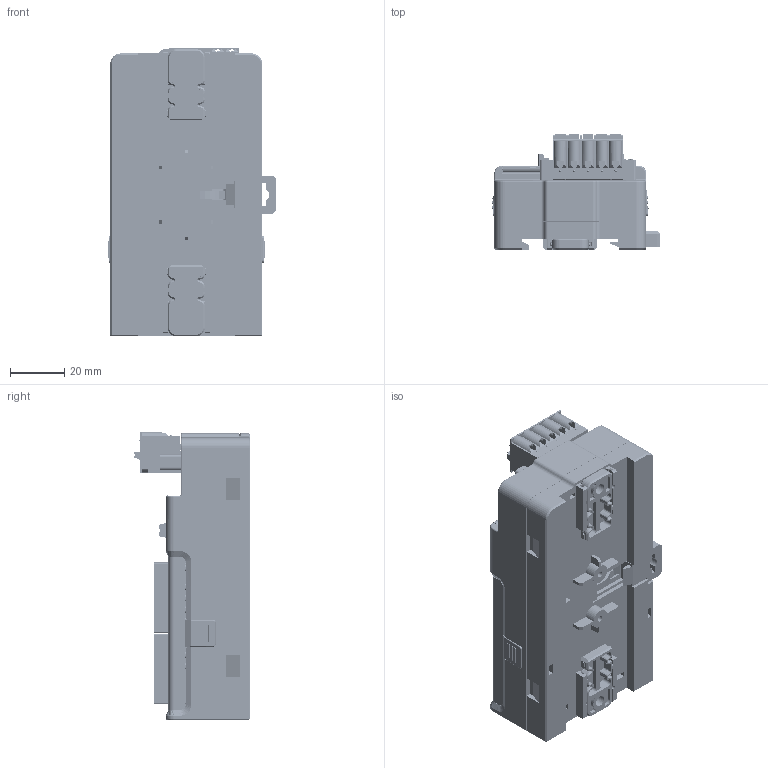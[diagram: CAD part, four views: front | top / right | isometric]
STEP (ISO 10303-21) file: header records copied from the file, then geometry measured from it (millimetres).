
FILE_DESCRIPTION(/* description */ (''),/* implementation_level */ '2;1');
FILE_NAME(/* name */ 'RS-短款-econ.stp',/* time_stamp */ '2024-06-20T17:42:36+08:00',/* author */ (''),/* organization */ (''),/* preprocessor_version */ 'ST-DEVELOPER v16',/* originating_system */ 'SIEMENS PLM Software NX 10.0',/* authorisation */ '');
FILE_SCHEMA (('AP203_CONFIGURATION_CONTROLLED_3D_DESIGN_OF_MECHANICAL_PARTS_AND_ASSEMBLIES_MIM_LF { 1 0 10303 403 2 1 2}'));
Products named in the file (1): chao3F38959Cct9i
Bounding box: 61.81 x 42.7 x 106.03 mm (x, y, z)
Volume: 153358.1 mm3; surface area: 85887.3 mm2
Topology: 31 solids, 118 shells, 10927 faces, 29107 edges, 18812 vertices
Faces by surface type: plane 7933, cylinder 1799, bspline 459, cone 441, torus 157, extrusion 84, sphere 50, revolution 4
Full cylindrical faces by diameter (mm): 0.6 x4, 0.76 x6, 0.8 x13, 0.9 x1, 0.92 x18, 1 x1, 1.1 x2, 1.2 x25, 1.24 x16, 1.26 x3, 1.36 x24, 1.5 x5, 1.64 x20, 1.7 x4, 2.35 x2, 2.5 x2, 2.8 x5, 3.2 x3, 3.3 x3, 4.2 x2, 6.05 x3, 6.15 x3
Entity records: 349662 total; most frequent: CARTESIAN_POINT 80097, ORIENTED_EDGE 57216, DIRECTION 52815, EDGE_CURVE 28608, VECTOR 22339, LINE 22255, VERTEX_POINT 18741, AXIS2_PLACEMENT_3D 15236
